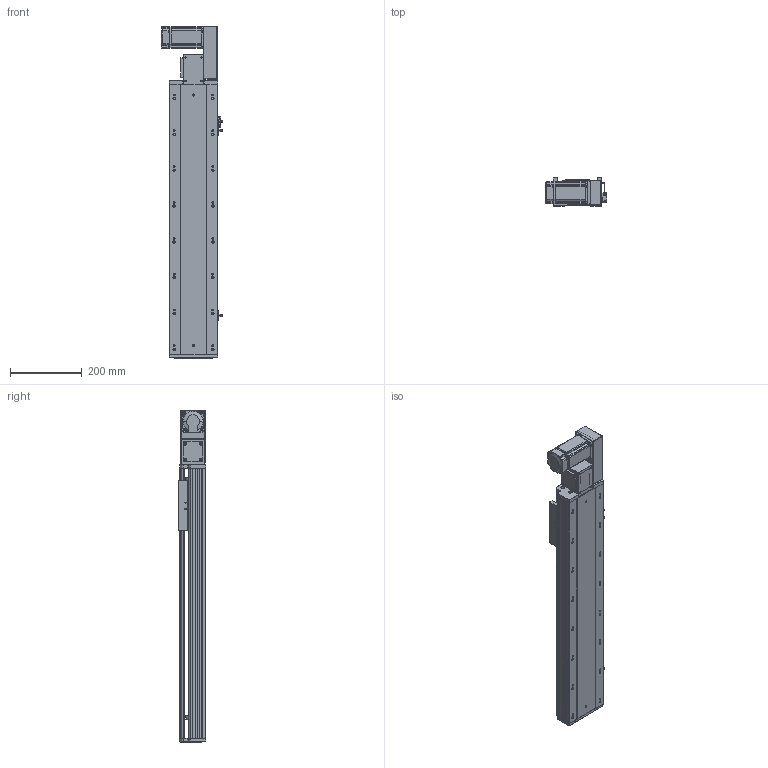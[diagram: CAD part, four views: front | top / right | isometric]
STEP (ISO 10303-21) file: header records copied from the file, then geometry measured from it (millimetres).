
FILE_DESCRIPTION (( 'STEP AP203' ), '1' );
FILE_NAME ('RY140-T-300-RK.SLDASM_500.step', '2021-03-01T06:45:06', ( '盈信电脑' ), ( '东莞市道滘镇水果街19号' ), 'SwSTEP 2.0', 'SolidWorks 2012', '' );
FILE_SCHEMA (( 'CONFIG_CONTROL_DESIGN' ));
Length unit declared in the file: millimetre
Products named in the file (17): RY140-T-300-RK.SLDASM_500; RY120-T主同步轮轴承压盖; 15; RY140-T萇儂欶; RY120-T蹟翐M4; RY140-T萇儂假蚾啣; 滅袉蝶18-10; RY140-T翋肮祭謫盓傅釱; RY140-T翋肮謫裔啣; RY120-T肮祭湍揤踡輸1; RY120-T肮祭湍揤踡輸2; RY120外置感应片(140共用）; RY140綴裔啣; 覜茼ん672; RY140-T-300-DR倰第菁釱_500; RY140-T-300-DR倰第奻裔啣_500; RY140肮祭謫臏賑輸
Assembly tree (22 placements, depth 2):
  RY140-T-300-RK.SLDASM_500
    RY140-T-300-DR倰第菁釱_500
    RY140肮祭謫臏賑輸
    RY140-T-300-DR倰第奻裔啣_500
    RY140綴裔啣
    覜茼ん672  x3
    RY120外置感应片(140共用）
    RY120-T肮祭湍揤踡輸2
    RY120-T肮祭湍揤踡輸1
    RY140-T翋肮祭謫盓傅釱
    滅袉蝶18-10  x2
    RY140-T翋肮謫裔啣
    RY140-T萇儂欶
    RY140-T萇儂假蚾啣
    RY120-T蹟翐M4  x4
    15
    RY120-T主同步轮轴承压盖
Bounding box: 170.7 x 78 x 926.5 mm (x, y, z)
Volume: 2796834.4 mm3; surface area: 1036546.1 mm2
Topology: 22 solids, 22 shells, 2619 faces, 7189 edges, 4636 vertices
Faces by surface type: plane 1385, cylinder 948, cone 186, bspline 100
Entity records: 83142 total; most frequent: CARTESIAN_POINT 20459, ORIENTED_EDGE 12930, DIRECTION 12205, EDGE_CURVE 6465, VERTEX_POINT 4235, LINE 4153, VECTOR 4153, AXIS2_PLACEMENT_3D 4026
